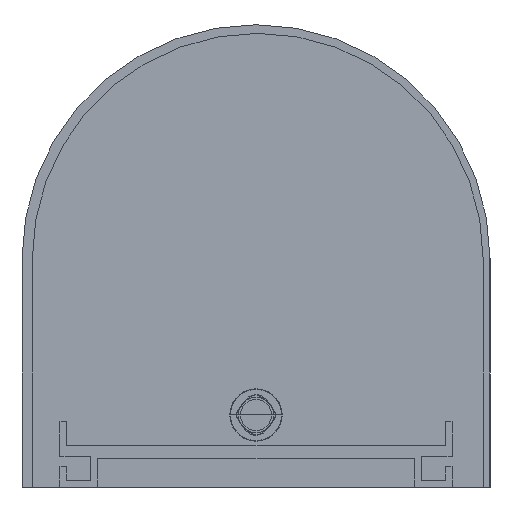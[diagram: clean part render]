
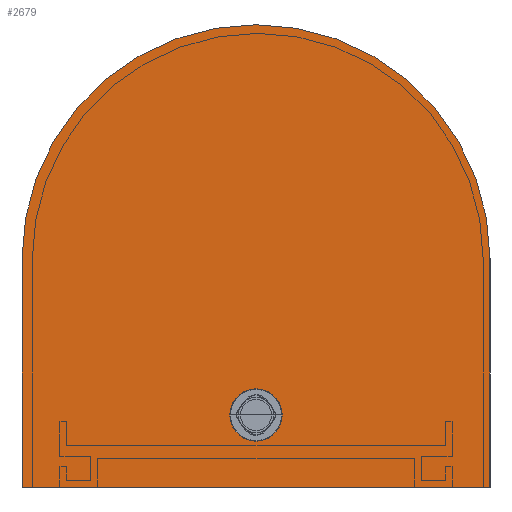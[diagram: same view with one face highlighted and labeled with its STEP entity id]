
A CAD part, left-side view. The second image highlights one B-rep face of the part: STEP entity #2679.
In plain terms, the highlighted planar face has unit normal (-1, 0, 0) as drawn and (0, -1, 0) by its records, which use the part's own axes.
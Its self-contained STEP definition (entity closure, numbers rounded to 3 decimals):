
#27=FACE_BOUND('',#369,.T.);
#214=FACE_OUTER_BOUND('',#368,.T.);
#368=EDGE_LOOP('',(#1933,#1934,#1935,#1936));
#369=EDGE_LOOP('',(#1937,#1938));
#532=CIRCLE('',#2858,3.798);
#533=CIRCLE('',#2860,3.798);
#535=CIRCLE('',#2863,34.);
#682=LINE('',#4340,#916);
#685=LINE('',#4346,#919);
#688=LINE('',#4350,#922);
#916=VECTOR('',#3256,304.8);
#919=VECTOR('',#3261,304.8);
#922=VECTOR('',#3266,304.8);
#1163=VERTEX_POINT('',#4320);
#1164=VERTEX_POINT('',#4322);
#1167=VERTEX_POINT('',#4331);
#1168=VERTEX_POINT('',#4333);
#1170=VERTEX_POINT('',#4339);
#1172=VERTEX_POINT('',#4345);
#1451=EDGE_CURVE('',#1163,#1164,#532,.T.);
#1452=EDGE_CURVE('',#1164,#1163,#533,.T.);
#1455=EDGE_CURVE('',#1168,#1167,#535,.T.);
#1458=EDGE_CURVE('',#1170,#1168,#682,.T.);
#1461=EDGE_CURVE('',#1172,#1170,#685,.T.);
#1464=EDGE_CURVE('',#1167,#1172,#688,.T.);
#1933=ORIENTED_EDGE('',*,*,#1464,.T.);
#1934=ORIENTED_EDGE('',*,*,#1461,.T.);
#1935=ORIENTED_EDGE('',*,*,#1458,.T.);
#1936=ORIENTED_EDGE('',*,*,#1455,.T.);
#1937=ORIENTED_EDGE('',*,*,#1452,.T.);
#1938=ORIENTED_EDGE('',*,*,#1451,.T.);
#2585=PLANE('',#2867);
#2679=ADVANCED_FACE('',(#214,#27),#2585,.T.);
#2858=AXIS2_PLACEMENT_3D('',#4324,#3239,#3240);
#2860=AXIS2_PLACEMENT_3D('',#4326,#3243,#3244);
#2863=AXIS2_PLACEMENT_3D('',#4334,#3250,#3251);
#2867=AXIS2_PLACEMENT_3D('',#4351,#3267,#3268);
#3239=DIRECTION('center_axis',(0.,1.,0.));
#3240=DIRECTION('ref_axis',(0.,0.,1.));
#3243=DIRECTION('center_axis',(0.,1.,0.));
#3244=DIRECTION('ref_axis',(0.,0.,1.));
#3250=DIRECTION('center_axis',(0.,-1.,0.));
#3251=DIRECTION('ref_axis',(1.,0.,0.));
#3256=DIRECTION('',(0.,0.,1.));
#3261=DIRECTION('',(1.,0.,0.));
#3266=DIRECTION('',(0.,0.,-1.));
#3267=DIRECTION('center_axis',(0.,-1.,0.));
#3268=DIRECTION('ref_axis',(0.,0.,-1.));
#4320=CARTESIAN_POINT('',(-3.798,-450.,10.5));
#4322=CARTESIAN_POINT('',(3.798,-450.,10.5));
#4324=CARTESIAN_POINT('Origin',(0.,-450.,
10.5));
#4326=CARTESIAN_POINT('Origin',(0.,-450.,
10.5));
#4331=CARTESIAN_POINT('',(-34.,-450.,33.2));
#4333=CARTESIAN_POINT('',(34.,-450.,33.2));
#4334=CARTESIAN_POINT('Origin',(0.,-450.,
33.2));
#4339=CARTESIAN_POINT('',(34.,-450.,0.));
#4340=CARTESIAN_POINT('',(34.,-450.,0.));
#4345=CARTESIAN_POINT('',(-34.,-450.,0.));
#4346=CARTESIAN_POINT('',(-34.,-450.,0.));
#4350=CARTESIAN_POINT('',(-34.,-450.,33.2));
#4351=CARTESIAN_POINT('Origin',(-34.,-450.,0.));
